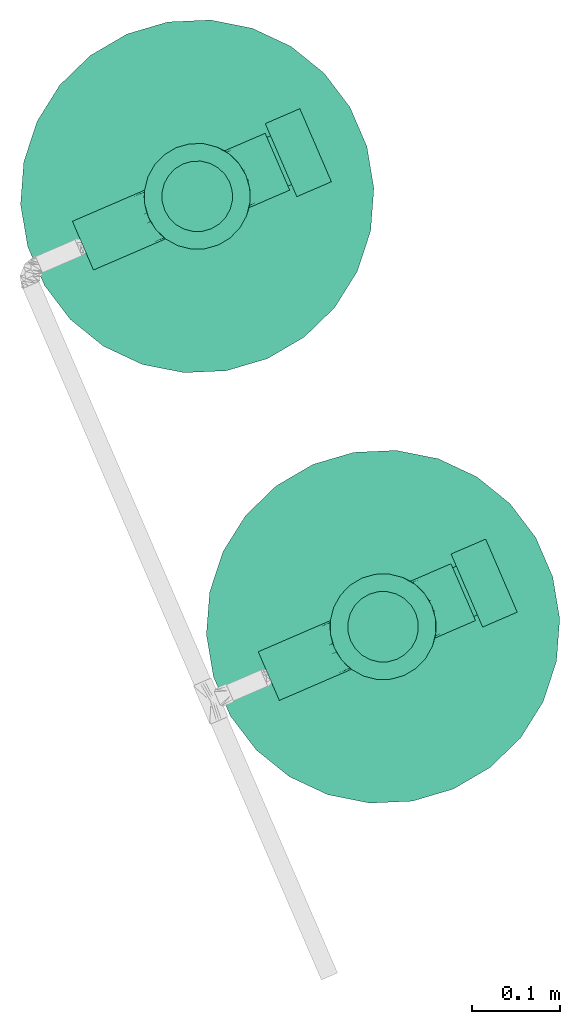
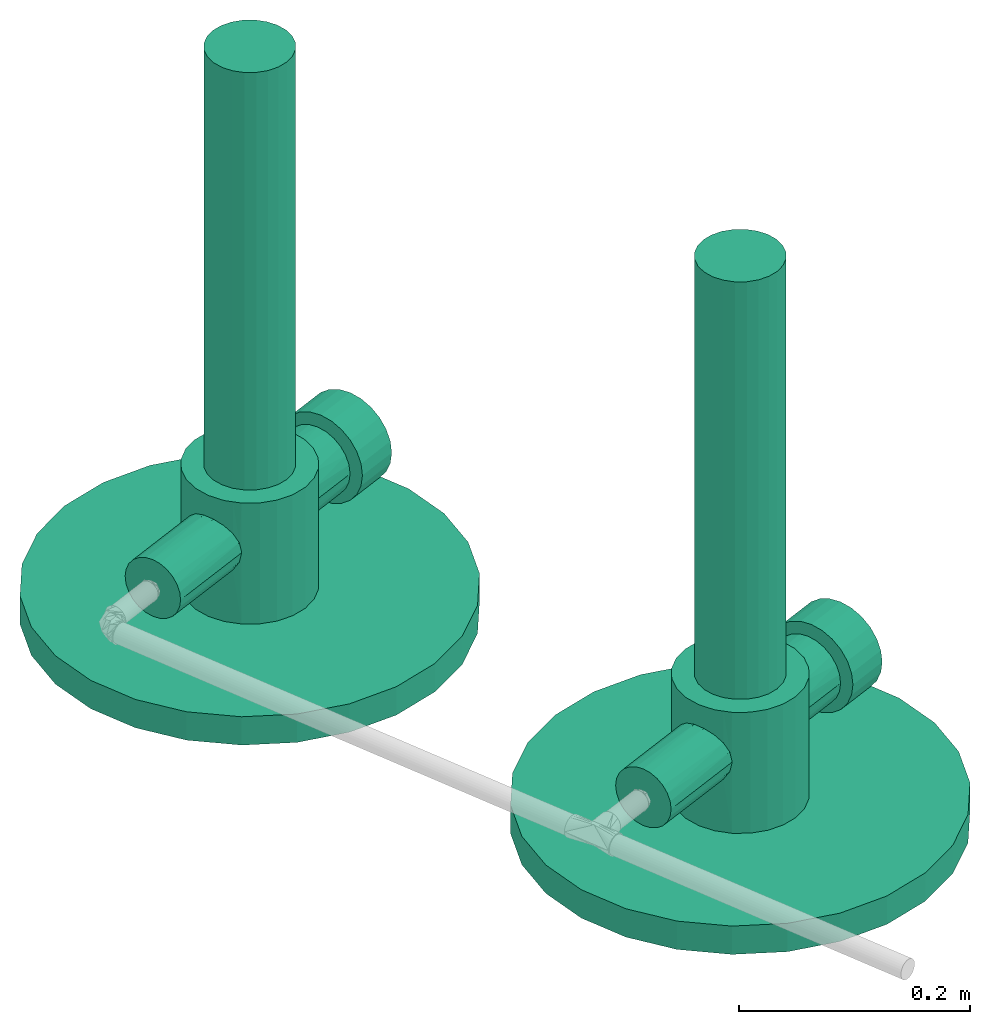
# One storey, part 1 of 2: 2 burners.
"""IFC4 building model written with IfcOpenShell, lengths in metres."""

from ifc_helpers import new_model, entity, si_unit, converted_unit, derived_unit, direction, frame, origin, place, context, subcontext, project, spatial, polygons, source, transform, mapped, material, type_object, type_shapes, element, save


model = new_model("IFC4")

# Units and contexts
model_context = context("Model", 3, precision=1e-05, world=origin(), true_north=direction((6.12323399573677e-17, 1.0)))
body_context = subcontext(model_context, "Body", "Model", "MODEL_VIEW")
ifc_project = project(units=[si_unit("LENGTHUNIT", "METRE"), si_unit("AREAUNIT", "SQUARE_METRE"), si_unit("VOLUMEUNIT", "CUBIC_METRE"), si_unit("PRESSUREUNIT", "PASCAL"), derived_unit("VOLUMETRICFLOWRATEUNIT", [(si_unit("LENGTHUNIT", "METRE", prefix="DECI"), 3), (si_unit("TIMEUNIT", "SECOND"), -1)]), converted_unit("PLANEANGLEUNIT", "DEGREE", entity("IfcPlaneAngleMeasure", 0.0174532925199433), si_unit("PLANEANGLEUNIT", "RADIAN"), dimensions=[0, 0, 0, 0, 0, 0, 0])], contexts=[model_context])

# Site, building, storey
site_placement = place(None, origin())
site = spatial("IfcSite", under=ifc_project, at=site_placement, Name="Default", CompositionType="ELEMENT")
building_placement = place(site_placement, frame((24.575451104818, -55.896759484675, 317.15), z_axis=(0.0, 0.0, 1.0), x_axis=(-0.396377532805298, 0.918087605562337, 0.0)))
building = spatial("IfcBuilding", under=site, at=building_placement, CompositionType="ELEMENT")
storey_placement = place(building_placement, frame((0.0, 0.0, 4.25000000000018)))
storey = spatial("IfcBuildingStorey", under=building, at=storey_placement, Name="Nivel 2", CompositionType="ELEMENT", Elevation=4.25000000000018)

# Burners
ifc_material = material(Name="<Unnamed>")
burner_type = type_object("IfcBurnerType", Name="Mechero:Mechero", PredefinedType="NOTDEFINED", material=ifc_material)
shared_shape = source(origin(), body_context, "Body", "Tessellation", [
    polygons([(0.03, 0.140777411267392, 0.105540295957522), (0.0289777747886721, 0.140777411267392, 0.113304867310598), (0.0259807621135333, 0.140777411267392, 0.120540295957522), (0.0212132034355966, 0.140777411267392, 0.126753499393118), (0.0150000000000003, 0.140777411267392, 0.131521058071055), (0.00776457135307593, 0.140777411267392, 0.134518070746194), (3.24733641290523e-16, 0.140777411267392, 0.135540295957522), (-0.0077645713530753, 0.140777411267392, 0.134518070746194), (-0.0149999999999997, 0.140777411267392, 0.131521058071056), (-0.0212132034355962, 0.140777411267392, 0.126753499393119), (-0.025980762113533, 0.140777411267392, 0.120540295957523), (-0.0289777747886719, 0.140777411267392, 0.113304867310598), (-0.03, 0.140777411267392, 0.105540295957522), (-0.03, 0.0519615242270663, 0.105540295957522), (-0.0281488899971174, 0.0529871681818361, 0.115915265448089), (-0.0229729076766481, 0.0554278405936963, 0.124833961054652), (-0.0151160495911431, 0.058064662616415, 0.131453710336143), (-0.00529779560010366, 0.05976565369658, 0.135068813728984), (0.0052891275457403, 0.0597664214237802, 0.135070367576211), (0.015112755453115, 0.0580655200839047, 0.131455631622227), (0.0229650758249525, 0.0554310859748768, 0.124843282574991), (0.0281481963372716, 0.0529875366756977, 0.115917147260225), (0.03, 0.0519615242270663, 0.105540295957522), (0.0290740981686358, 0.052474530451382, 0.110728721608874), (0.0102009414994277, 0.0589159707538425, 0.133262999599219), (-0.0102069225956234, 0.0589151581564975, 0.133261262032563), (-4.33402718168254e-06, 0.0597660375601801, 0.135069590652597), (-0.0290744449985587, 0.0524743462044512, 0.110727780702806), (-0.028977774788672, 0.140777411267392, 0.0977757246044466), (-0.0259807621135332, 0.140777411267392, 0.0905402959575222), (-0.0212132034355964, 0.140777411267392, 0.0843270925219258), (-0.015, 0.140777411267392, 0.0795595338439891), (-0.00776457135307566, 0.140777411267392, 0.0765625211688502), (-4.89878376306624e-17, 0.140777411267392, 0.0755402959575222), (0.00776457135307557, 0.140777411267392, 0.0765625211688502), (0.0149999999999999, 0.140777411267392, 0.079559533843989), (0.0212132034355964, 0.140777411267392, 0.0843270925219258), (0.0259807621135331, 0.140777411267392, 0.0905402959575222), (0.028977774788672, 0.140777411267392, 0.0977757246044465), (0.0281481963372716, 0.0529875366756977, 0.0951634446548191), (0.0229650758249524, 0.0554310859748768, 0.0862373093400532), (0.0151127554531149, 0.0580655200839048, 0.079624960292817), (0.00528912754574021, 0.0597664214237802, 0.0760102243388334), (-0.00529779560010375, 0.05976565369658, 0.0760117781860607), (-0.0151160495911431, 0.058064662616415, 0.0796268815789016), (-0.0229729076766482, 0.0554278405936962, 0.0862466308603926), (-0.0281488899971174, 0.0529871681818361, 0.0951653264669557), (-0.0290744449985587, 0.0524743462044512, 0.100352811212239), (-0.0102069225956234, 0.0589151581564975, 0.0778193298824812), (0.0102009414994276, 0.0589159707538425, 0.0778175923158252), (-4.33402718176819e-06, 0.0597660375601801, 0.076011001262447), (0.0290740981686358, 0.052474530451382, 0.100351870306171), (-0.06, 1.938147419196e-16, 0.158062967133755), (-0.0579555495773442, -0.015529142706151, 0.158062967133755), (-0.0519615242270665, -0.0299999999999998, 0.158062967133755), (-0.042426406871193, -0.0424264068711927, 0.158062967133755), (-0.0300000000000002, -0.0519615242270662, 0.158062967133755), (-0.0155291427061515, -0.057955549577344, 0.158062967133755), (-2.79176681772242e-16, -0.06, 0.158062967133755), (0.015529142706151, -0.0579555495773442, 0.158062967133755), (0.0299999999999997, -0.0519615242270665, 0.158062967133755), (0.0424264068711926, -0.0424264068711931, 0.158062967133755), (0.0519615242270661, -0.0300000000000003, 0.158062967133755), (0.057955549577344, -0.0155291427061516, 0.158062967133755), (0.06, -5.06070118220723e-20, 0.158062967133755), (0.0579555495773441, 0.0155291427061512, 0.158062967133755), (0.0519615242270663, 0.03, 0.158062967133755), (0.0424264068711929, 0.0424264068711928, 0.158062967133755), (0.0300000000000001, 0.0519615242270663, 0.158062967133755), (0.0155291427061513, 0.0579555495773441, 0.158062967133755), (8.45989944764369e-17, 0.06, 0.158062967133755), (-0.0155291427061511, 0.0579555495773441, 0.158062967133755), (-0.0299999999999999, 0.0519615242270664, 0.158062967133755), (-0.0424264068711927, 0.042426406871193, 0.158062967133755), (-0.0519615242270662, 0.0300000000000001, 0.158062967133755), (-0.057955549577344, 0.0155291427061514, 0.158062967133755), (0.04, -2.58487131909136e-16, 0.158062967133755), (0.0386370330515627, -0.0103527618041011, 0.158062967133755), (0.0346410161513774, -0.0200000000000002, 0.158062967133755), (0.0282842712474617, -0.0282842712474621, 0.158062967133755), (0.0199999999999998, -0.0346410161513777, 0.158062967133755), (0.0103527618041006, -0.0386370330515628, 0.158062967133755), (-1.86117787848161e-16, -0.04, 0.158062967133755), (-0.010352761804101, -0.0386370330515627, 0.158062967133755), (-0.0200000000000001, -0.0346410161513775, 0.158062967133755), (-0.028284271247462, -0.0282842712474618, 0.158062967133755), (-0.0346410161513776, -0.0199999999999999, 0.158062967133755), (-0.0386370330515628, -0.0103527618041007, 0.158062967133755), (-0.04, -1.47007134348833e-16, 0.158062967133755), (-0.0386370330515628, 0.0103527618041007, 0.158062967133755), (-0.0346410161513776, 0.0199999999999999, 0.158062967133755), (-0.028284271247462, 0.0282842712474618, 0.158062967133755), (-0.0200000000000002, 0.0346410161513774, 0.158062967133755), (-0.010352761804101, 0.0386370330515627, 0.158062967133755), (-2.19957385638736e-16, 0.04, 0.158062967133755), (0.0103527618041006, 0.0386370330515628, 0.158062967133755), (0.0199999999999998, 0.0346410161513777, 0.158062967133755), (0.0282842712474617, 0.0282842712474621, 0.158062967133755), (0.0346410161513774, 0.0200000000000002, 0.158062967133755), (0.0386370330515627, 0.0103527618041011, 0.158062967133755), (-0.06, 1.67169389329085e-16, 0.03), (-0.057955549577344, 0.0155291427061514, 0.03), (-0.0519615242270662, 0.0300000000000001, 0.03), (-0.0424264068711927, 0.042426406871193, 0.03), (-0.0299999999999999, 0.0519615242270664, 0.03), (-0.0155291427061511, 0.0579555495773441, 0.03), (8.45989944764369e-17, 0.06, 0.03), (0.0155291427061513, 0.0579555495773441, 0.03), (0.0300000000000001, 0.0519615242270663, 0.03), (0.0424264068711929, 0.0424264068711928, 0.03), (0.0519615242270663, 0.03, 0.03), (0.0579555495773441, 0.0155291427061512, 0.03), (0.06, -3.34490599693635e-16, 0.03), (0.057955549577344, -0.0155291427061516, 0.03), (0.0519615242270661, -0.0300000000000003, 0.03), (0.0424264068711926, -0.0424264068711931, 0.03), (0.0299999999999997, -0.0519615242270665, 0.03), (0.015529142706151, -0.0579555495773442, 0.03), (-2.79176681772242e-16, -0.06, 0.03), (-0.0155291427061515, -0.057955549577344, 0.03), (-0.0300000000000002, -0.0519615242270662, 0.03), (-0.042426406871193, -0.0424264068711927, 0.03), (-0.0519615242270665, -0.0299999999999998, 0.03), (-0.0579555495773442, -0.015529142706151, 0.03), (-0.0350000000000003, -0.0487339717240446, 0.106389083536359), (-0.0328211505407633, -0.0502272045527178, 0.118545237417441), (-0.0268063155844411, -0.0536788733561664, 0.128892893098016), (-0.0176988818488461, -0.0573301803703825, 0.136584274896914), (-0.00622472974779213, -0.0596762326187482, 0.140831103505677), (0.00621395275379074, -0.0596773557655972, 0.140833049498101), (0.0176944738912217, -0.0573315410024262, 0.136586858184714), (0.0267976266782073, -0.0536832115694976, 0.12890323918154), (0.0328202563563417, -0.0502277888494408, 0.118547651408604), (0.0349999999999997, -0.0487339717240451, 0.106389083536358), (0.0328202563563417, -0.0502277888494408, 0.0942305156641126), (0.0267976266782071, -0.0536832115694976, 0.0838749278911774), (0.0176944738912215, -0.0573315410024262, 0.0761913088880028), (0.00621395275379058, -0.0596773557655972, 0.0719451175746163), (-0.00622472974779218, -0.0596762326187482, 0.0719470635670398), (-0.0176988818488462, -0.0573301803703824, 0.0761938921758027), (-0.0268063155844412, -0.0536788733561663, 0.0838852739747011), (-0.0328211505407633, -0.0502272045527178, 0.0942329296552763), (0.022764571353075, -0.0549585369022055, 0.158062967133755), (0.00776457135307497, -0.0589777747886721, 0.158062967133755), (-0.00776457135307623, -0.058977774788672, 0.158062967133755), (-0.0227645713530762, -0.054958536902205, 0.158062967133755), (-0.00776457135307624, -0.058977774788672, 0.03), (0.00776457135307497, -0.0589777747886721, 0.03), (-0.0119618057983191, -0.0585032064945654, 0.138707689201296), (-5.38849700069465e-06, -0.0596767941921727, 0.140832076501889), (0.0119542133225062, -0.0585044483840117, 0.138709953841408), (0.0191468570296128, -0.0564570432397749, 0.158062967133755), (0.00388228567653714, -0.0594888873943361, 0.158062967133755), (-0.00388228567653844, -0.059488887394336, 0.158062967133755), (-0.019146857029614, -0.0564570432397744, 0.158062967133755), (0.00310428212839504, -0.059677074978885, 0.140832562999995), (-0.0222525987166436, -0.0555045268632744, 0.132738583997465), (-0.011646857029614, -0.058466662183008, 0.158062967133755), (-0.00311505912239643, -0.0596765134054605, 0.140831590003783), (0.0116468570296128, -0.0584666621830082, 0.158062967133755), (0.0222460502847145, -0.0555073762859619, 0.132745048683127), (-0.0227645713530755, 0.0549585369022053, 0.158062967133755), (-0.00776457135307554, 0.0589777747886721, 0.158062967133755), (0.00776457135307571, 0.058977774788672, 0.158062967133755), (0.0227645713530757, 0.0549585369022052, 0.158062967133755), (-0.04, 1.29243565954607e-16, 0.6), (-0.0386370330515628, -0.0103527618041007, 0.6), (-0.0346410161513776, -0.0199999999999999, 0.6), (-0.028284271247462, -0.0282842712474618, 0.6), (-0.0200000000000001, -0.0346410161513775, 0.6), (-0.010352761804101, -0.0386370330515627, 0.6), (-1.86117787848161e-16, -0.04, 0.6), (0.0103527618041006, -0.0386370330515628, 0.6), (0.0199999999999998, -0.0346410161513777, 0.6), (0.0282842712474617, -0.0282842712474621, 0.6), (0.0346410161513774, -0.0200000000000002, 0.6), (0.0386370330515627, -0.0103527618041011, 0.6), (0.04, 0.0, 0.6), (0.0386370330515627, 0.0103527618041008, 0.6), (0.0346410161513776, 0.02, 0.6), (0.0282842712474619, 0.0282842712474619, 0.6), (0.02, 0.0346410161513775, 0.6), (0.0103527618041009, 0.0386370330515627, 0.6), (5.92192961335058e-17, 0.04, 0.6), (-0.0103527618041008, 0.0386370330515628, 0.6), (-0.0199999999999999, 0.0346410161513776, 0.6), (-0.0282842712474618, 0.028284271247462, 0.6), (-0.0346410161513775, 0.0200000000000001, 0.6), (-0.0386370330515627, 0.0103527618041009, 0.6), (0.03, -0.0987791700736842, 0.105540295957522), (0.0289777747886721, -0.0987791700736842, 0.113304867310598), (0.0259807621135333, -0.0987791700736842, 0.120540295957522), (0.0212132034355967, -0.0987791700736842, 0.126753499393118), (0.0150000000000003, -0.0987791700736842, 0.131521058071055), (0.00776457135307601, -0.0987791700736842, 0.134518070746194), (4.04669699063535e-16, -0.0987791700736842, 0.135540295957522), (-0.0077645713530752, -0.0987791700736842, 0.134518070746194), (-0.0149999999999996, -0.0987791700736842, 0.131521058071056), (-0.0212132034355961, -0.0987791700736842, 0.126753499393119), (-0.0259807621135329, -0.0987791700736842, 0.120540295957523), (-0.0289777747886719, -0.0987791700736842, 0.113304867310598), (-0.03, -0.0987791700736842, 0.105540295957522), (-0.03, -0.103264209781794, 0.105540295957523), (-0.0289777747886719, -0.103264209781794, 0.113304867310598), (-0.0259807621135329, -0.103264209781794, 0.120540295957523), (-0.0212132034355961, -0.103264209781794, 0.126753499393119), (-0.0149999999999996, -0.103264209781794, 0.131521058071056), (-0.0077645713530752, -0.103264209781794, 0.134518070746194), (4.04669699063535e-16, -0.103264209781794, 0.135540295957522), (0.00776457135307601, -0.103264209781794, 0.134518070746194), (0.0150000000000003, -0.103264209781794, 0.131521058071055), (0.0212132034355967, -0.103264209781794, 0.126753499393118), (0.0259807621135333, -0.103264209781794, 0.120540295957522), (0.0289777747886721, -0.103264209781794, 0.113304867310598), (0.03, -0.103264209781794, 0.105540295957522), (-0.028977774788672, -0.0987791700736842, 0.0977757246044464), (-0.0259807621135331, -0.0987791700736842, 0.0905402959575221), (-0.0212132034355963, -0.0987791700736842, 0.0843270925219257), (-0.0149999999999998, -0.0987791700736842, 0.079559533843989), (-0.00776457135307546, -0.0987791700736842, 0.0765625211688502), (1.64174983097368e-16, -0.0987791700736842, 0.0755402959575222), (0.00776457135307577, -0.0987791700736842, 0.0765625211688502), (0.0150000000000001, -0.0987791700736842, 0.0795595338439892), (0.0212132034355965, -0.0987791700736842, 0.0843270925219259), (0.0259807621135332, -0.0987791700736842, 0.0905402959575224), (0.0289777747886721, -0.0987791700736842, 0.0977757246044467), (0.0289777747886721, -0.103264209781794, 0.0977757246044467), (0.0259807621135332, -0.103264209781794, 0.0905402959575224), (0.0212132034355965, -0.103264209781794, 0.0843270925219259), (0.0150000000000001, -0.103264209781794, 0.0795595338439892), (0.00776457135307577, -0.103264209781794, 0.0765625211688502), (1.64174983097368e-16, -0.103264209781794, 0.0755402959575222), (-0.00776457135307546, -0.103264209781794, 0.0765625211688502), (-0.0149999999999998, -0.103264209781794, 0.079559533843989), (-0.0212132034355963, -0.103264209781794, 0.0843270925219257), (-0.0259807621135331, -0.103264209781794, 0.0905402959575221), (-0.028977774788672, -0.103264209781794, 0.0977757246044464), (0.035, -0.0987791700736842, 0.106389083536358), (0.0338074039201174, -0.0987791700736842, 0.115447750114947), (0.0303108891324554, -0.0987791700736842, 0.123889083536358), (0.0247487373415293, -0.0987791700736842, 0.131137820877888), (0.0175000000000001, -0.0987791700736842, 0.136699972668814), (0.00905866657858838, -0.0987791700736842, 0.140196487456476), (1.6073808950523e-16, -0.0987791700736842, 0.141389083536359), (-0.00905866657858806, -0.0987791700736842, 0.140196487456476), (-0.0174999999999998, -0.0987791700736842, 0.136699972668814), (-0.024748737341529, -0.0987791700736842, 0.131137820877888), (-0.0303108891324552, -0.0987791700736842, 0.123889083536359), (-0.0338074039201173, -0.0987791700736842, 0.115447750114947), (-0.035, -0.0987791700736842, 0.106389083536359), (-0.0338074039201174, -0.0987791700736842, 0.0973304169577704), (-0.0303108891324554, -0.0987791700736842, 0.0888890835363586), (-0.0247487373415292, -0.0987791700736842, 0.0816403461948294), (-0.0175, -0.0987791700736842, 0.0760781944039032), (-0.00905866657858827, -0.0987791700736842, 0.0725816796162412), (-5.07593966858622e-17, -0.0987791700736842, 0.0713890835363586), (0.00905866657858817, -0.0987791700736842, 0.0725816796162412), (0.0174999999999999, -0.0987791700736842, 0.0760781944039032), (0.0247487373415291, -0.0987791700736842, 0.0816403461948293), (0.0303108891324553, -0.0987791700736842, 0.0888890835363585), (0.0338074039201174, -0.0987791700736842, 0.0973304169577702), (0.0339101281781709, -0.0494808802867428, 0.112468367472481), (-0.0339105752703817, -0.0494805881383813, 0.1124671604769), (-0.0339105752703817, -0.0494805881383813, 0.100311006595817), (-0.0119618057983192, -0.0585032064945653, 0.0740704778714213), (-5.38849700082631e-06, -0.0596767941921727, 0.0719460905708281), (0.0119542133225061, -0.0585044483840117, 0.0740682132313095), (0.0339101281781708, -0.0494808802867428, 0.100309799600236), (-0.045, -0.145831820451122, 0.106435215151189), (-0.0434666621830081, -0.145831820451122, 0.0947883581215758), (-0.0389711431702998, -0.145831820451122, 0.0839352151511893), (-0.0318198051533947, -0.145831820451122, 0.0746154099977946), (-0.0225000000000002, -0.145831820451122, 0.0674640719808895), (-0.0116468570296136, -0.145831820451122, 0.0629685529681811), (-2.11497486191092e-16, -0.145831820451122, 0.0614352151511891), (0.0116468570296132, -0.145831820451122, 0.062968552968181), (0.0224999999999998, -0.145831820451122, 0.0674640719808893), (0.0318198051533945, -0.145831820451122, 0.0746154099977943), (0.0389711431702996, -0.145831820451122, 0.0839352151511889), (0.043466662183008, -0.145831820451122, 0.0947883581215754), (0.045, -0.145831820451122, 0.106435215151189), (0.0434666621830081, -0.145831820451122, 0.118082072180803), (0.0389711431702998, -0.145831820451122, 0.128935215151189), (0.0318198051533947, -0.145831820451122, 0.138255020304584), (0.0225, -0.145831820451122, 0.145406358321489), (0.0116468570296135, -0.145831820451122, 0.149901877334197), (5.92192961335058e-17, -0.145831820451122, 0.151435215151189), (-0.0116468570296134, -0.145831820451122, 0.149901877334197), (-0.0224999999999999, -0.145831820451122, 0.145406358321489), (-0.0318198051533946, -0.145831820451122, 0.138255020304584), (-0.0389711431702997, -0.145831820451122, 0.128935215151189), (-0.043466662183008, -0.145831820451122, 0.118082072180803), (-0.045, -0.103264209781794, 0.106435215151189), (-0.043466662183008, -0.103264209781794, 0.118082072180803), (-0.0389711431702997, -0.103264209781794, 0.128935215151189), (-0.0318198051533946, -0.103264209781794, 0.138255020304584), (-0.0224999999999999, -0.103264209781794, 0.145406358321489), (-0.0116468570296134, -0.103264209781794, 0.149901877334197), (5.92192961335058e-17, -0.103264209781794, 0.151435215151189), (0.0116468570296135, -0.103264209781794, 0.149901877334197), (0.0225, -0.103264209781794, 0.145406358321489), (0.0318198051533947, -0.103264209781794, 0.138255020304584), (0.0389711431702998, -0.103264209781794, 0.128935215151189), (0.0434666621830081, -0.103264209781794, 0.118082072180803), (0.045, -0.103264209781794, 0.106435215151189), (0.043466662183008, -0.103264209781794, 0.0947883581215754), (0.0389711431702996, -0.103264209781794, 0.0839352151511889), (0.0318198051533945, -0.103264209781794, 0.0746154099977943), (0.0224999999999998, -0.103264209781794, 0.0674640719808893), (0.0116468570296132, -0.103264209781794, 0.062968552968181), (-2.11497486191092e-16, -0.103264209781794, 0.0614352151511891), (-0.0116468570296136, -0.103264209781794, 0.0629685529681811), (-0.0225000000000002, -0.103264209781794, 0.0674640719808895), (-0.0318198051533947, -0.103264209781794, 0.0746154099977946), (-0.0389711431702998, -0.103264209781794, 0.0839352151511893), (-0.0434666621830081, -0.103264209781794, 0.0947883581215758)], [[[22, 2, 3]], [[20, 4, 5]], [[3, 4, 21]], [[6, 25, 5]], [[6, 19, 25]], [[2, 22, 24]], [[26, 9, 17]], [[22, 3, 21]], [[21, 4, 20]], [[13, 28, 12]], [[20, 5, 25]], [[24, 1, 2]], [[7, 18, 27, 19]], [[7, 19, 6]], [[10, 17, 9]], [[15, 11, 12]], [[10, 11, 16]], [[13, 14, 28]], [[18, 7, 8]], [[9, 26, 8]], [[26, 18, 8]], [[16, 17, 10]], [[11, 15, 16]], [[28, 15, 12]], [[24, 23, 1]], [[33, 44, 49]], [[45, 31, 32]], [[1, 52, 39]], [[33, 49, 32]], [[50, 36, 42]], [[29, 47, 48]], [[47, 29, 30]], [[47, 30, 46]], [[46, 30, 31]], [[46, 31, 45]], [[45, 32, 49]], [[48, 14, 13]], [[34, 43, 51, 44]], [[34, 44, 33]], [[37, 42, 36]], [[40, 38, 39]], [[37, 38, 41]], [[1, 23, 52]], [[43, 34, 35]], [[36, 50, 35]], [[50, 43, 35]], [[41, 42, 37]], [[38, 40, 41]], [[52, 40, 39]], [[48, 13, 29]], [[61, 62, 63, 64, 65, 66, 67, 68, 69, 165, 70, 164, 71, 163, 72, 162, 73, 74, 75, 76, 53, 54, 55, 56, 57, 146, 155, 58, 158, 145, 154, 59, 153, 144, 160, 60, 152, 143], [81, 82, 83, 84, 85, 86, 87, 88, 89, 90, 91, 92, 93, 94, 95, 96, 97, 98, 99, 100, 77, 78, 79, 80]], [[173, 174, 175, 176, 177, 178, 179, 180, 181, 182, 183, 184, 185, 186, 187, 188, 189, 166, 167, 168, 169, 170, 171, 172]], [[112, 113, 114, 115, 116, 117, 118, 148, 119, 147, 120, 121, 122, 123, 124, 101, 102, 103, 104, 105, 106, 107, 108, 109, 110, 111]], [[55, 123, 122, 56]], [[87, 86, 169, 168]], [[53, 101, 124, 54]], [[89, 88, 167, 166]], [[123, 55, 54, 124]], [[88, 87, 168, 167]], [[122, 142, 264, 125]], [[122, 121, 142]], [[140, 121, 120]], [[139, 120, 147, 119]], [[128, 58, 155]], [[140, 141, 121]], [[120, 139, 265, 140]], [[146, 127, 157]], [[144, 151, 60, 160]], [[121, 141, 142]], [[130, 144, 153]], [[125, 56, 122]], [[152, 161, 143]], [[56, 125, 263, 126]], [[149, 145, 158, 58]], [[59, 156, 153]], [[155, 157, 128]], [[126, 127, 57]], [[146, 57, 127]], [[149, 129, 145]], [[59, 159, 150, 156]], [[126, 57, 56]], [[161, 152, 131]], [[119, 138, 266, 139]], [[154, 129, 159]], [[118, 117, 137]], [[58, 128, 149]], [[118, 137, 267, 138]], [[136, 137, 117]], [[117, 135, 136]], [[118, 138, 119, 148]], [[115, 63, 62, 116]], [[80, 79, 176, 175]], [[114, 64, 63, 115]], [[79, 78, 177, 176]], [[116, 134, 268, 135]], [[116, 135, 117]], [[62, 134, 116]], [[129, 154, 145]], [[114, 113, 65, 64]], [[78, 77, 178, 177]], [[132, 143, 161]], [[60, 131, 152]], [[155, 146, 157]], [[156, 130, 153]], [[60, 151, 131]], [[132, 61, 143]], [[61, 133, 62]], [[133, 61, 132]], [[62, 133, 262, 134]], [[151, 144, 130]], [[159, 59, 154]], [[110, 68, 67, 111]], [[99, 98, 181, 180]], [[66, 65, 113, 112]], [[178, 77, 100, 179]], [[23, 69, 68, 110, 109]], [[98, 97, 182, 181]], [[111, 67, 66, 112]], [[179, 100, 99, 180]], [[108, 107, 43]], [[108, 43, 50, 42]], [[40, 109, 41]], [[42, 41, 108]], [[41, 109, 108]], [[109, 40, 52, 23]], [[69, 23, 24, 22]], [[20, 70, 165]], [[21, 165, 22]], [[165, 69, 22]], [[25, 19, 164]], [[25, 70, 20]], [[107, 44, 51, 43]], [[106, 45, 49, 44]], [[106, 44, 107]], [[71, 19, 27, 18]], [[46, 45, 106]], [[105, 47, 46]], [[70, 25, 164]], [[46, 106, 105]], [[19, 71, 164]], [[103, 75, 74, 104]], [[92, 91, 188, 187]], [[102, 76, 75, 103]], [[91, 90, 189, 188]], [[105, 104, 74, 73, 14]], [[93, 92, 187, 186]], [[105, 14, 48, 47]], [[73, 15, 28, 14]], [[102, 101, 53, 76]], [[90, 89, 166, 189]], [[15, 162, 16]], [[16, 162, 17]], [[20, 165, 21]], [[71, 18, 163]], [[26, 72, 163]], [[162, 72, 17]], [[163, 18, 26]], [[73, 162, 15]], [[72, 26, 17]], [[85, 84, 171, 170]], [[86, 85, 170, 169]], [[83, 172, 171, 84]], [[81, 80, 175, 174]], [[82, 81, 174, 173]], [[82, 173, 172, 83]], [[97, 96, 183, 182]], [[95, 184, 183, 96]], [[94, 93, 186, 185]], [[94, 185, 184, 95]], [[33, 32, 31, 30, 29, 13, 12, 11, 10, 9, 8, 7, 6, 5, 4, 3, 2, 1, 39, 38, 37, 36, 35, 34]], [[301, 302, 303, 304, 305, 306, 307, 308, 309, 310, 311, 312, 313, 314, 315, 316, 293, 294, 295, 296, 297, 298, 299, 300], [211, 210, 209, 208, 207, 206, 205, 204, 203, 237, 236, 235, 234, 233, 232, 231, 230, 229, 228, 227, 215, 214, 213, 212]], [[213, 214, 191, 192]], [[303, 283, 282, 304]], [[214, 215, 190, 191]], [[304, 282, 281, 305]], [[211, 212, 193, 194]], [[285, 284, 302, 301]], [[192, 193, 212, 213]], [[303, 302, 284, 283]], [[210, 211, 194, 195]], [[286, 285, 301, 300]], [[209, 210, 195, 196]], [[286, 300, 299, 287]], [[198, 207, 208, 197]], [[288, 298, 297, 289]], [[199, 206, 207, 198]], [[296, 290, 289, 297]], [[204, 205, 200, 201]], [[291, 295, 294, 292]], [[199, 200, 205, 206]], [[296, 295, 291, 290]], [[203, 204, 201, 202]], [[292, 294, 293, 269]], [[197, 208, 209, 196]], [[288, 287, 299, 298]], [[216, 237, 203, 202]], [[316, 270, 269, 293]], [[217, 236, 237, 216]], [[315, 271, 270, 316]], [[234, 235, 218, 219]], [[314, 313, 273, 272]], [[217, 218, 235, 236]], [[315, 314, 272, 271]], [[233, 234, 219, 220]], [[274, 273, 313, 312]], [[232, 233, 220, 221]], [[275, 274, 312, 311]], [[223, 230, 231, 222]], [[276, 310, 309, 277]], [[224, 229, 230, 223]], [[308, 278, 277, 309]], [[227, 228, 225, 226]], [[279, 307, 306, 280]], [[224, 225, 228, 229]], [[308, 307, 279, 278]], [[215, 227, 226, 190]], [[280, 306, 305, 281]], [[222, 231, 232, 221]], [[310, 276, 275, 311]], [[246, 247, 248, 249, 250, 251, 252, 253, 254, 255, 256, 257, 258, 259, 260, 261, 238, 239, 240, 241, 242, 243, 244, 245], [198, 197, 196, 195, 194, 193, 192, 191, 190, 226, 225, 224, 223, 222, 221, 220, 219, 218, 217, 216, 202, 201, 200, 199]], [[276, 277, 278, 279, 280, 281, 282, 283, 284, 285, 286, 287, 288, 289, 290, 291, 292, 269, 270, 271, 272, 273, 274, 275]], [[238, 262, 239]], [[262, 238, 134]], [[151, 130, 243]], [[242, 151, 243]], [[240, 133, 132]], [[241, 132, 161, 131]], [[249, 126, 263]], [[151, 242, 131]], [[240, 239, 133]], [[131, 242, 241]], [[241, 240, 132]], [[244, 130, 156, 150, 159, 129]], [[244, 129, 245]], [[243, 130, 244]], [[262, 133, 239]], [[149, 128, 246]], [[248, 127, 126]], [[245, 129, 149]], [[247, 128, 157, 127]], [[125, 250, 263]], [[245, 149, 246]], [[128, 247, 246]], [[248, 247, 127]], [[126, 249, 248]], [[249, 263, 250]], [[250, 264, 251]], [[254, 265, 255]], [[252, 142, 141]], [[253, 141, 140]], [[142, 252, 251]], [[265, 254, 140]], [[264, 250, 125]], [[141, 253, 252]], [[139, 256, 255]], [[265, 139, 255]], [[140, 254, 253]], [[264, 142, 251]], [[257, 138, 267]], [[256, 139, 266, 138]], [[256, 138, 257]], [[261, 135, 268]], [[267, 137, 258]], [[260, 136, 135]], [[137, 136, 259]], [[134, 238, 268]], [[257, 267, 258]], [[137, 259, 258]], [[260, 259, 136]], [[135, 261, 260]], [[261, 268, 238]]], closed=True),
    polygons([(-0.2, 6.46256136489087e-16, 0.03), (-0.194188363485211, -0.0478631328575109, 0.03), (-0.177091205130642, -0.0929446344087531, 0.03), (-0.149702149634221, -0.132624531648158, 0.03), (-0.113612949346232, -0.164596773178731, 0.03), (-0.070920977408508, -0.187003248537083, 0.03), (-0.0241073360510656, -0.198541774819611, 0.03), (0.0241073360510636, -0.198541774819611, 0.03), (0.0709209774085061, -0.187003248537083, 0.03), (0.11361294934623, -0.164596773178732, 0.03), (0.149702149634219, -0.13262453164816, 0.03), (0.177091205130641, -0.0929446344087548, 0.03), (0.19418836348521, -0.0478631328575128, 0.03), (0.2, 3.83067160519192e-20, 0.03), (0.19418836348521, 0.0478631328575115, 0.03), (0.177091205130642, 0.0929446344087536, 0.03), (0.14970214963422, 0.132624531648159, 0.03), (0.113612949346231, 0.164596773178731, 0.03), (0.0709209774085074, 0.187003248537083, 0.03), (0.0241073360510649, 0.198541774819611, 0.03), (-0.0241073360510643, 0.198541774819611, 0.03), (-0.0709209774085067, 0.187003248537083, 0.03), (-0.113612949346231, 0.164596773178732, 0.03), (-0.14970214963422, 0.132624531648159, 0.03), (-0.177091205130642, 0.0929446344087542, 0.03), (-0.19418836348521, 0.0478631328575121, 0.03), (-0.2, 6.46256136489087e-16, 0.0), (-0.19418836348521, 0.0478631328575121, 0.0), (-0.177091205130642, 0.0929446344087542, 0.0), (-0.14970214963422, 0.132624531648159, 0.0), (-0.113612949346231, 0.164596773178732, 0.0), (-0.0709209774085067, 0.187003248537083, 0.0), (-0.0241073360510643, 0.198541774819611, 0.0), (0.0241073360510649, 0.198541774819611, 0.0), (0.0709209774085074, 0.187003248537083, 0.0), (0.113612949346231, 0.164596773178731, 0.0), (0.14970214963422, 0.132624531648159, 0.0), (0.177091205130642, 0.0929446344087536, 0.0), (0.19418836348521, 0.0478631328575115, 0.0), (0.2, -1.29239735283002e-15, 0.0), (0.19418836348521, -0.0478631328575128, 0.0), (0.177091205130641, -0.0929446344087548, 0.0), (0.149702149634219, -0.13262453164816, 0.0), (0.11361294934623, -0.164596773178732, 0.0), (0.0709209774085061, -0.187003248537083, 0.0), (0.0241073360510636, -0.198541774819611, 0.0), (-0.0241073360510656, -0.198541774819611, 0.0), (-0.070920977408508, -0.187003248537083, 0.0), (-0.113612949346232, -0.164596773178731, 0.0), (-0.149702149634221, -0.132624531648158, 0.0), (-0.177091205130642, -0.0929446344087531, 0.0), (-0.194188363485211, -0.0478631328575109, 0.0)], [[[9, 10, 11, 12, 13, 14, 15, 16, 17, 18, 19, 20, 21, 22, 23, 24, 25, 26, 1, 2, 3, 4, 5, 6, 7, 8]], [[34, 35, 36, 37, 38, 39, 40, 41, 42, 43, 44, 45, 46, 47, 48, 49, 50, 51, 52, 27, 28, 29, 30, 31, 32, 33]], [[52, 2, 1, 27]], [[51, 3, 2, 52]], [[5, 4, 50, 49]], [[49, 48, 6, 5]], [[51, 50, 4, 3]], [[47, 7, 6, 48]], [[47, 46, 8, 7]], [[45, 9, 8, 46]], [[44, 10, 9, 45]], [[13, 12, 42, 41]], [[41, 40, 14, 13]], [[44, 43, 11, 10]], [[43, 42, 12, 11]], [[39, 15, 14, 40]], [[38, 16, 15, 39]], [[18, 17, 37, 36]], [[36, 35, 19, 18]], [[38, 37, 17, 16]], [[34, 20, 19, 35]], [[34, 33, 21, 20]], [[23, 22, 32, 31]], [[33, 32, 22, 21]], [[29, 28, 26, 25]], [[24, 30, 29, 25]], [[23, 31, 30, 24]], [[26, 28, 27, 1]]], closed=True),
])
type_shapes(burner_type, [shared_shape])
for number, where in (
    (1, (9.57513615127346, 38.4806785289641, 0.750000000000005)),
    (2, (10.1053709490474, 38.4806785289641, 0.750000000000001)),
):
    element("IfcBurner", number, at=place(storey_placement, frame(where)), inside=storey, type_object=burner_type, material=ifc_material, Name="Mechero:Mechero", ObjectType="Mechero:Mechero", PredefinedType="NOTDEFINED", context=body_context, shape_type="MappedRepresentation", body=[
        mapped(shared_shape, transform((0.0, 0.0, 0.0), scale=1.0)),
    ])

save(model, "model.ifc")
